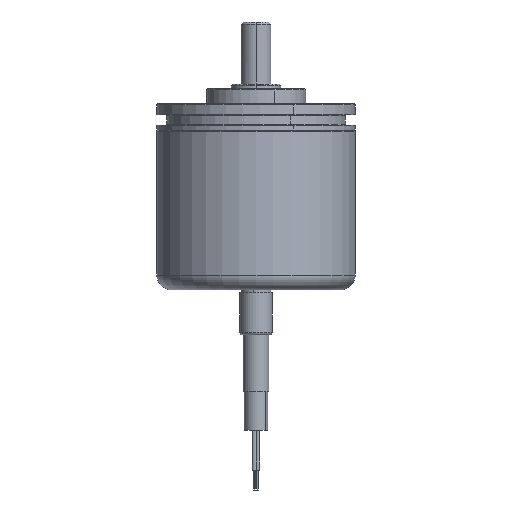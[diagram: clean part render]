
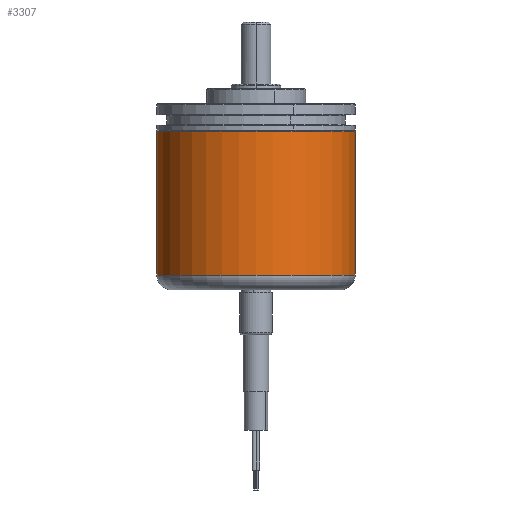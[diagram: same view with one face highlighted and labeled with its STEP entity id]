
A CAD part, front view. The second image highlights one B-rep face of the part: STEP entity #3307.
In plain terms, the highlighted cylindrical face has radius 20 mm (diameter 40 mm), a partial arc.
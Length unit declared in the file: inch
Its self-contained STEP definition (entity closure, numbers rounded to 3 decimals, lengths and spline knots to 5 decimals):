
#106 = VECTOR ( 'NONE', #2049, 39.37008 ) ;
#176 = DIRECTION ( 'NONE',  ( 0., 0., -1. ) ) ;
#244 = EDGE_CURVE ( 'NONE', #3498, #2895, #476, .T. ) ;
#325 = FACE_OUTER_BOUND ( 'NONE', #3406, .T. ) ;
#342 = VERTEX_POINT ( 'NONE', #1467 ) ;
#476 = CIRCLE ( 'NONE', #3074, 0.7874 ) ;
#622 = CARTESIAN_POINT ( 'NONE',  ( -0.7874, 0., 1.25984 ) ) ;
#791 = AXIS2_PLACEMENT_3D ( 'NONE', #822, #3141, #1158 ) ;
#822 = CARTESIAN_POINT ( 'NONE',  ( 0., 0., 1.25984 ) ) ;
#841 = CARTESIAN_POINT ( 'NONE',  ( 0.7874, 0., 1.25984 ) ) ;
#1090 = AXIS2_PLACEMENT_3D ( 'NONE', #1947, #2260, #3621 ) ;
#1158 = DIRECTION ( 'NONE',  ( 1., 0., 0. ) ) ;
#1228 = CARTESIAN_POINT ( 'NONE',  ( 0., 0., 0.11811 ) ) ;
#1384 = ORIENTED_EDGE ( 'NONE', *, *, #2461, .F. ) ;
#1467 = CARTESIAN_POINT ( 'NONE',  ( 0.7874, 0., 1.25984 ) ) ;
#1868 = EDGE_CURVE ( 'NONE', #2724, #342, #3353, .T. ) ;
#1885 = LINE ( 'NONE', #4064, #106 ) ;
#1894 = DIRECTION ( 'NONE',  ( 1., 0., 0. ) ) ;
#1947 = CARTESIAN_POINT ( 'NONE',  ( 0., 0., 1.25984 ) ) ;
#2024 = CARTESIAN_POINT ( 'NONE',  ( -0.7874, 0., 0.11811 ) ) ;
#2049 = DIRECTION ( 'NONE',  ( 0., 0., -1. ) ) ;
#2111 = VECTOR ( 'NONE', #176, 39.37008 ) ;
#2127 = DIRECTION ( 'NONE',  ( 0., 0., 1. ) ) ;
#2260 = DIRECTION ( 'NONE',  ( 0., 0., -1. ) ) ;
#2440 = CYLINDRICAL_SURFACE ( 'NONE', #1090, 0.7874 ) ;
#2461 = EDGE_CURVE ( 'NONE', #342, #2895, #4017, .T. ) ;
#2602 = ORIENTED_EDGE ( 'NONE', *, *, #3971, .T. ) ;
#2665 = ORIENTED_EDGE ( 'NONE', *, *, #1868, .F. ) ;
#2724 = VERTEX_POINT ( 'NONE', #622 ) ;
#2895 = VERTEX_POINT ( 'NONE', #4331 ) ;
#3074 = AXIS2_PLACEMENT_3D ( 'NONE', #1228, #2127, #1894 ) ;
#3141 = DIRECTION ( 'NONE',  ( 0., 0., 1. ) ) ;
#3307 = ADVANCED_FACE ( 'NONE', ( #325 ), #2440, .T. ) ;
#3353 = CIRCLE ( 'NONE', #791, 0.7874 ) ;
#3406 = EDGE_LOOP ( 'NONE', ( #1384, #2665, #2602, #4313 ) ) ;
#3498 = VERTEX_POINT ( 'NONE', #2024 ) ;
#3621 = DIRECTION ( 'NONE',  ( -1., 0., 0. ) ) ;
#3971 = EDGE_CURVE ( 'NONE', #2724, #3498, #1885, .T. ) ;
#4017 = LINE ( 'NONE', #841, #2111 ) ;
#4064 = CARTESIAN_POINT ( 'NONE',  ( -0.7874, 0., 1.25984 ) ) ;
#4313 = ORIENTED_EDGE ( 'NONE', *, *, #244, .T. ) ;
#4331 = CARTESIAN_POINT ( 'NONE',  ( 0.7874, 0., 0.11811 ) ) ;
